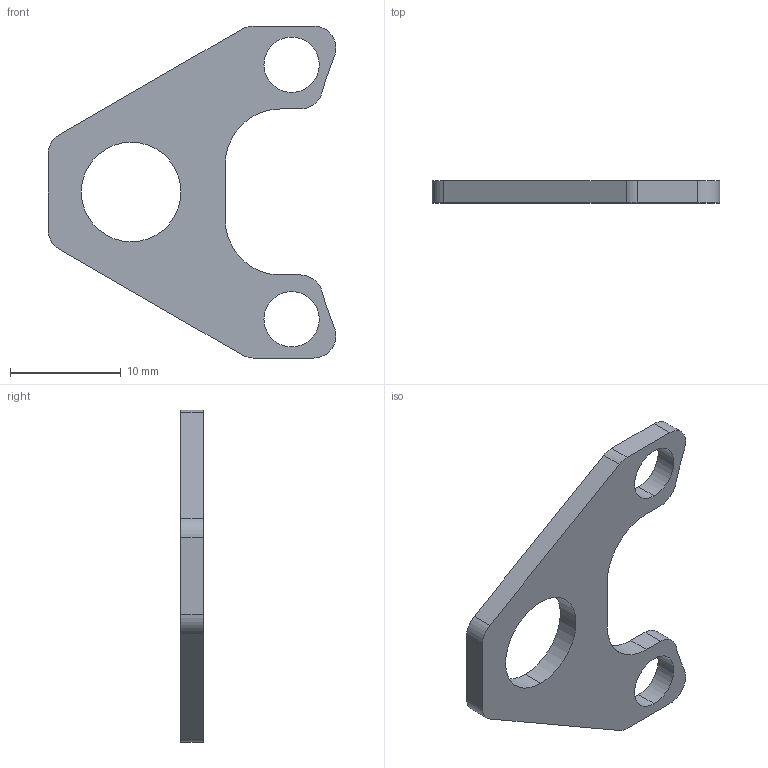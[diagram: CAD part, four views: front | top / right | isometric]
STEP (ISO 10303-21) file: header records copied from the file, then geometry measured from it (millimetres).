
FILE_DESCRIPTION (( 'STEP AP214' ), '1' );
FILE_NAME ('NTS307-B-BRACKET.STEP', '2025-01-09T06:15:20', ( '' ), ( '' ), 'SwSTEP 2.0', 'SolidWorks 2022', '' );
FILE_SCHEMA (( 'AUTOMOTIVE_DESIGN' ));
Length unit declared in the file: millimetre
Products named in the file (1): NTS307-B-BRACKET
Bounding box: 26 x 2 x 30 mm (x, y, z)
Volume: 677.1 mm3; surface area: 1009.7 mm2
Topology: 1 solids, 1 shells, 28 faces, 78 edges, 52 vertices
Faces by surface type: cylinder 18, plane 10
Entity records: 964 total; most frequent: DIRECTION 172, CARTESIAN_POINT 159, ORIENTED_EDGE 156, EDGE_CURVE 78, AXIS2_PLACEMENT_3D 65, VERTEX_POINT 52, VECTOR 42, LINE 42
